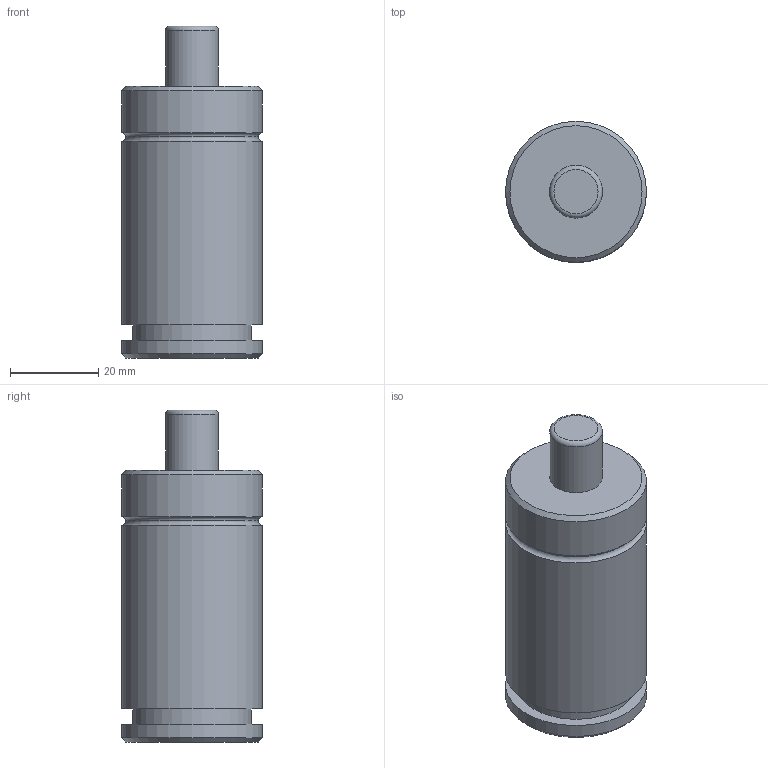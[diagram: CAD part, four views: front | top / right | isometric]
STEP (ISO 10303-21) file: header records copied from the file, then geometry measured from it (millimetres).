
FILE_DESCRIPTION(('FreeCAD Model'),'2;1');
FILE_NAME('Open CASCADE Shape Model','2024-11-14T09:54:34',('Author'),( ''),'Open CASCADE STEP processor 7.6','FreeCAD','Unknown');
FILE_SCHEMA(('AUTOMOTIVE_DESIGN { 1 0 10303 214 1 1 1 1 }'));
Length unit declared in the file: millimetre
Products named in the file (5): Unnamed; Part003; Cut; Part009; Cut003
Assembly tree (4 placements, depth 3):
  Unnamed
    Part003
      Cut
    Part009
      Cut003
Bounding box: 32 x 32 x 75.4 mm (x, y, z)
Volume: 49026.2 mm3; surface area: 9700.4 mm2
Topology: 2 solids, 3 shells, 25 faces, 36 edges, 22 vertices
Faces by surface type: plane 11, cylinder 9, torus 3, cone 2
Full cylindrical faces by diameter (mm): 6 x4, 12 x1, 27 x1, 32 x3
Entity records: 647 total; most frequent: DIRECTION 121, CARTESIAN_POINT 88, ORIENTED_EDGE 72, AXIS2_PLACEMENT_3D 55, EDGE_CURVE 36, FACE_BOUND 30, EDGE_LOOP 30, ADVANCED_FACE 25
